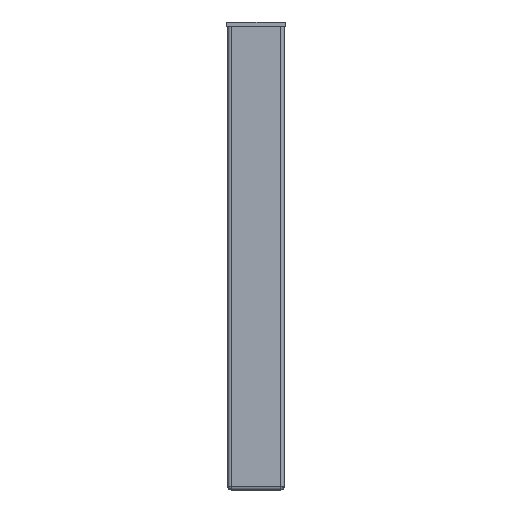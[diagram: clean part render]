
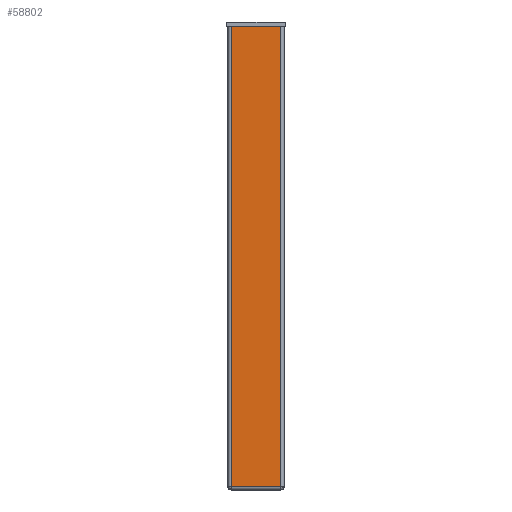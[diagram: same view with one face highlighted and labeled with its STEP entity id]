
A CAD part, left-side view. The second image highlights one B-rep face of the part: STEP entity #58802.
In plain terms, the highlighted planar face has unit normal (-1, 0, 0).
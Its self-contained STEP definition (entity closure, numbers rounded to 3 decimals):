
#48930 = DIRECTION ( 'NONE',  ( 0., 0., -1. ) ) ;
#48931 = DIRECTION ( 'NONE',  ( 1., 0., 0. ) ) ;
#48932 = CARTESIAN_POINT ( 'NONE',  ( -215.5, 0., 0. ) ) ;
#48934 = PLANE ( 'NONE',  #48944 ) ;
#48944 = AXIS2_PLACEMENT_3D ( 'NONE', #48932, #48931, #48930 ) ;
#48949 = FACE_OUTER_BOUND ( 'NONE', #59088, .T. ) ;
#49171 = DIRECTION ( 'NONE',  ( 0., 0., 1. ) ) ;
#49172 = VECTOR ( 'NONE', #49171, 1000. ) ;
#49173 = CARTESIAN_POINT ( 'NONE',  ( -215.5, -18.7, 0. ) ) ;
#49176 = DIRECTION ( 'NONE',  ( 0., -1., 0. ) ) ;
#49177 = VECTOR ( 'NONE', #49176, 1000. ) ;
#49178 = CARTESIAN_POINT ( 'NONE',  ( -215.5, 0., -171.45 ) ) ;
#49179 = LINE ( 'NONE', #49178, #49177 ) ;
#49181 = DIRECTION ( 'NONE',  ( 0., 0., -1. ) ) ;
#49182 = VECTOR ( 'NONE', #49181, 1000. ) ;
#49183 = CARTESIAN_POINT ( 'NONE',  ( -215.5, 18.7, 0. ) ) ;
#49185 = CARTESIAN_POINT ( 'NONE',  ( -215.5, -18.7, -171.45 ) ) ;
#49186 = LINE ( 'NONE', #49183, #49182 ) ;
#49189 = LINE ( 'NONE', #49173, #49172 ) ;
#49201 = CARTESIAN_POINT ( 'NONE',  ( -215.5, 18.7, 173.85 ) ) ;
#49236 = CARTESIAN_POINT ( 'NONE',  ( -215.5, 18.7, -171.45 ) ) ;
#49237 = DIRECTION ( 'NONE',  ( 0., -1., 0. ) ) ;
#49238 = VECTOR ( 'NONE', #49237, 1000. ) ;
#49239 = CARTESIAN_POINT ( 'NONE',  ( -215.5, 21.1, 173.85 ) ) ;
#49241 = LINE ( 'NONE', #49239, #49238 ) ;
#49245 = CARTESIAN_POINT ( 'NONE',  ( -215.5, -18.7, 173.85 ) ) ;
#58799 = ORIENTED_EDGE ( 'NONE', *, *, #59040, .T. ) ;
#58802 = ADVANCED_FACE ( 'NONE', ( #48949 ), #48934, .F. ) ;
#59024 = ORIENTED_EDGE ( 'NONE', *, *, #59029, .T. ) ;
#59027 = ORIENTED_EDGE ( 'NONE', *, *, #59090, .F. ) ;
#59029 = EDGE_CURVE ( 'NONE', #59084, #59095, #49186, .T. ) ;
#59032 = VERTEX_POINT ( 'NONE', #49185 ) ;
#59034 = EDGE_CURVE ( 'NONE', #59095, #59032, #49179, .T. ) ;
#59037 = ORIENTED_EDGE ( 'NONE', *, *, #59034, .T. ) ;
#59040 = EDGE_CURVE ( 'NONE', #59032, #59085, #49189, .T. ) ;
#59084 = VERTEX_POINT ( 'NONE', #49201 ) ;
#59085 = VERTEX_POINT ( 'NONE', #49245 ) ;
#59088 = EDGE_LOOP ( 'NONE', ( #59027, #59024, #59037, #58799 ) ) ;
#59090 = EDGE_CURVE ( 'NONE', #59084, #59085, #49241, .T. ) ;
#59095 = VERTEX_POINT ( 'NONE', #49236 ) ;
